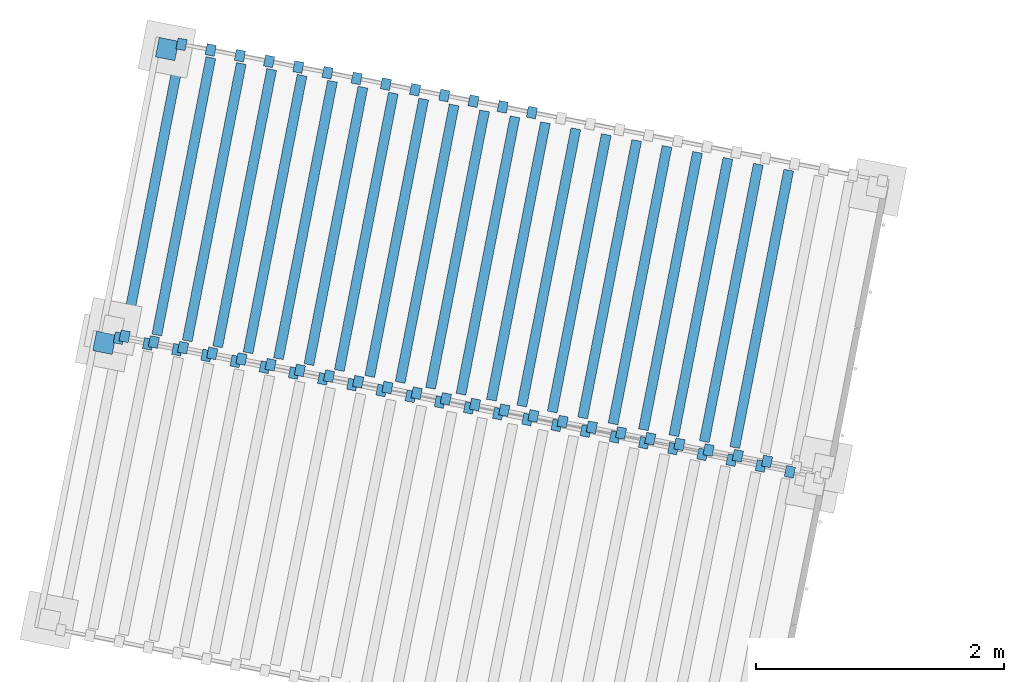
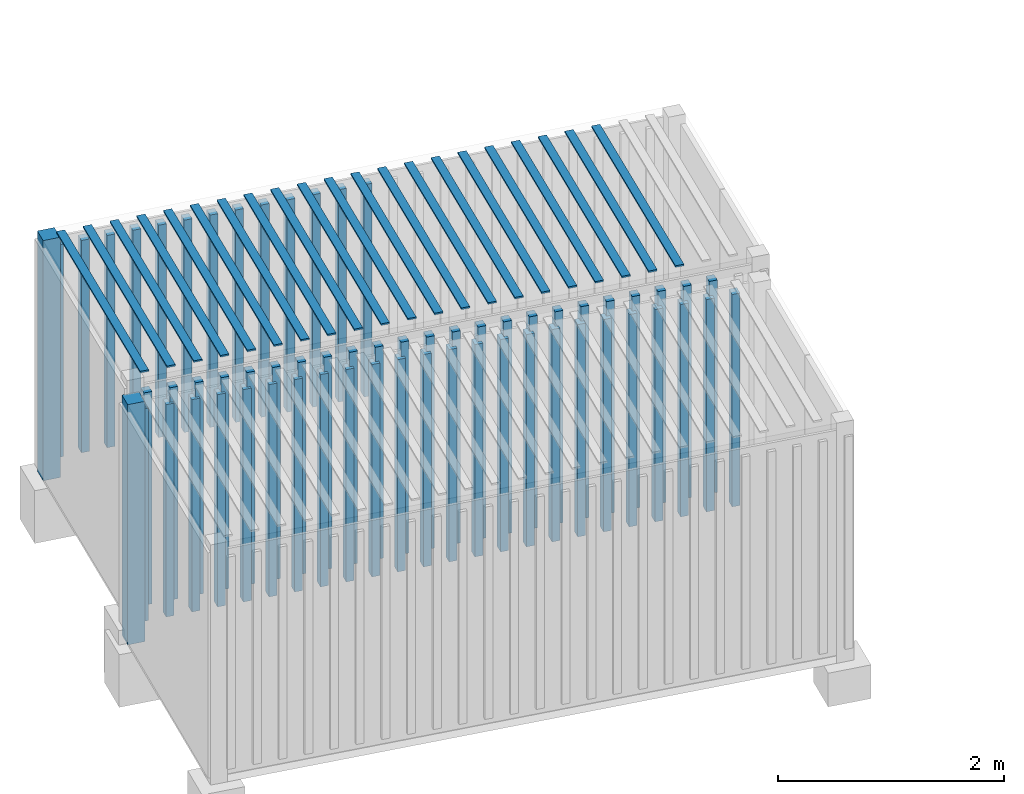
# One storey, part 83 of 142: 83 members, 2 elements without a shape of their own.
"""IFC4 building model written with IfcOpenShell, lengths in metres."""

from ifc_helpers import new_model, si_unit, direction, frame, origin_with_axes, place, context, subcontext, project, spatial, polyline, outline, extrude, material, element, aggregate, save


model = new_model("IFC4")

# Units and contexts
model_context = context("Model", 3, precision=1e-05, world=origin_with_axes(), true_north=direction((0.0, 1.0)))
body_context = subcontext(model_context, "Body", "Model", "MODEL_VIEW")
ifc_project = project(units=[si_unit("LENGTHUNIT", "METRE"), si_unit("AREAUNIT", "SQUARE_METRE"), si_unit("VOLUMEUNIT", "CUBIC_METRE")], contexts=[model_context])

# Site, building, storey
site_placement = place(None, origin_with_axes())
site = spatial("IfcSite", under=ifc_project, at=site_placement, Name="Lares · Rua das Mercês · artigo 4771")
building_placement = place(site_placement, frame((15.0, 9.7, 14.65), z_axis=(0.0, 0.0, 1.0), x_axis=(0.989015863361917, -0.147809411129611, 0.0)))
building = spatial("IfcBuilding", under=site, at=building_placement, Name="Casa Sobreposta")
storey_placement = place(building_placement, origin_with_axes())
storey = spatial("IfcBuildingStorey", under=building, at=storey_placement, Name="00 · Habitação e estacionamento", Elevation=14.65)

# Assembly, members
assembly_1_placement = place(storey_placement, frame((-14.4335953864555, 9.04888612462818, 0.0), z_axis=(0.0, 0.0, 1.0), x_axis=(0.999032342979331, -0.0439815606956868, 0.0)))
assembly_1 = element("IfcElementAssembly", 1, at=assembly_1_placement, inside=storey, Name="Contentor existente 1 · 6 m", ObjectType="EXISTING_SHIPPING_CONTAINER", PredefinedType="USERDEFINED")
ifc_material_1 = material(Name="Contentor · pintura 1", Category="steel")
member_1_placement = place(assembly_1_placement, frame((0.0, 0.0, -1.01314181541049), z_axis=(0.0, 0.0, 1.0), x_axis=(1.0, 0.0, 0.0)))
member_1 = element("IfcMember", 2, at=member_1_placement, material=ifc_material_1, Name="Contentor · canto", context=body_context, shape_type="SweptSolid", body=[
    extrude(outline(polyline([(0.16, 2.28), (0.16, 2.44), (0.0, 2.44), (0.0, 2.28), (0.16, 2.28)])), origin_with_axes(), (0.0, 0.0, 1.0), 2.59),
])
member_2_placement = place(assembly_1_placement, frame((0.0, 0.0, -0.863141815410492), z_axis=(0.0, 0.0, 1.0), x_axis=(1.0, 0.0, 0.0)))
member_2 = element("IfcMember", 3, at=member_2_placement, material=ifc_material_1, Name="Contentor · nervura lateral", context=body_context, shape_type="SweptSolid", body=[
    extrude(outline(polyline([(0.225, -0.025), (0.225, 0.065), (0.15, 0.065), (0.15, -0.025), (0.225, -0.025)])), origin_with_axes(), (0.0, 0.0, 1.0), 2.29),
])
member_3_placement = place(assembly_1_placement, frame((0.0, 0.0, -0.863141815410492), z_axis=(0.0, 0.0, 1.0), x_axis=(1.0, 0.0, 0.0)))
member_3 = element("IfcMember", 4, at=member_3_placement, material=ifc_material_1, Name="Contentor · nervura lateral", context=body_context, shape_type="SweptSolid", body=[
    extrude(outline(polyline([(0.465, -0.025), (0.465, 0.065), (0.39, 0.065), (0.39, -0.025), (0.465, -0.025)])), origin_with_axes(), (0.0, 0.0, 1.0), 2.29),
])
member_4_placement = place(assembly_1_placement, frame((0.0, 0.0, -0.863141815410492), z_axis=(0.0, 0.0, 1.0), x_axis=(1.0, 0.0, 0.0)))
member_4 = element("IfcMember", 5, at=member_4_placement, material=ifc_material_1, Name="Contentor · nervura lateral", context=body_context, shape_type="SweptSolid", body=[
    extrude(outline(polyline([(0.705, -0.025), (0.705, 0.065), (0.63, 0.065), (0.63, -0.025), (0.705, -0.025)])), origin_with_axes(), (0.0, 0.0, 1.0), 2.29),
])
member_5_placement = place(assembly_1_placement, frame((0.0, 0.0, -0.863141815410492), z_axis=(0.0, 0.0, 1.0), x_axis=(1.0, 0.0, 0.0)))
member_5 = element("IfcMember", 6, at=member_5_placement, material=ifc_material_1, Name="Contentor · nervura lateral", context=body_context, shape_type="SweptSolid", body=[
    extrude(outline(polyline([(0.945, -0.025), (0.945, 0.065), (0.87, 0.065), (0.87, -0.025), (0.945, -0.025)])), origin_with_axes(), (0.0, 0.0, 1.0), 2.29),
])
member_6_placement = place(assembly_1_placement, frame((0.0, 0.0, -0.863141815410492), z_axis=(0.0, 0.0, 1.0), x_axis=(1.0, 0.0, 0.0)))
member_6 = element("IfcMember", 7, at=member_6_placement, material=ifc_material_1, Name="Contentor · nervura lateral", context=body_context, shape_type="SweptSolid", body=[
    extrude(outline(polyline([(1.185, -0.025), (1.185, 0.065), (1.11, 0.065), (1.11, -0.025), (1.185, -0.025)])), origin_with_axes(), (0.0, 0.0, 1.0), 2.29),
])
member_7_placement = place(assembly_1_placement, frame((0.0, 0.0, -0.863141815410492), z_axis=(0.0, 0.0, 1.0), x_axis=(1.0, 0.0, 0.0)))
member_7 = element("IfcMember", 8, at=member_7_placement, material=ifc_material_1, Name="Contentor · nervura lateral", context=body_context, shape_type="SweptSolid", body=[
    extrude(outline(polyline([(1.425, -0.025), (1.425, 0.065), (1.35, 0.065), (1.35, -0.025), (1.425, -0.025)])), origin_with_axes(), (0.0, 0.0, 1.0), 2.29),
])
member_8_placement = place(assembly_1_placement, frame((0.0, 0.0, -0.863141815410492), z_axis=(0.0, 0.0, 1.0), x_axis=(1.0, 0.0, 0.0)))
member_8 = element("IfcMember", 9, at=member_8_placement, material=ifc_material_1, Name="Contentor · nervura lateral", context=body_context, shape_type="SweptSolid", body=[
    extrude(outline(polyline([(1.665, -0.025), (1.665, 0.065), (1.59, 0.065), (1.59, -0.025), (1.665, -0.025)])), origin_with_axes(), (0.0, 0.0, 1.0), 2.29),
])
member_9_placement = place(assembly_1_placement, frame((0.0, 0.0, -0.863141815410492), z_axis=(0.0, 0.0, 1.0), x_axis=(1.0, 0.0, 0.0)))
member_9 = element("IfcMember", 10, at=member_9_placement, material=ifc_material_1, Name="Contentor · nervura lateral", context=body_context, shape_type="SweptSolid", body=[
    extrude(outline(polyline([(1.905, -0.025), (1.905, 0.065), (1.83, 0.065), (1.83, -0.025), (1.905, -0.025)])), origin_with_axes(), (0.0, 0.0, 1.0), 2.29),
])
member_10_placement = place(assembly_1_placement, frame((0.0, 0.0, -0.863141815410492), z_axis=(0.0, 0.0, 1.0), x_axis=(1.0, 0.0, 0.0)))
member_10 = element("IfcMember", 11, at=member_10_placement, material=ifc_material_1, Name="Contentor · nervura lateral", context=body_context, shape_type="SweptSolid", body=[
    extrude(outline(polyline([(2.145, -0.025), (2.145, 0.065), (2.07, 0.065), (2.07, -0.025), (2.145, -0.025)])), origin_with_axes(), (0.0, 0.0, 1.0), 2.29),
])
member_11_placement = place(assembly_1_placement, frame((0.0, 0.0, -0.863141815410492), z_axis=(0.0, 0.0, 1.0), x_axis=(1.0, 0.0, 0.0)))
member_11 = element("IfcMember", 12, at=member_11_placement, material=ifc_material_1, Name="Contentor · nervura lateral", context=body_context, shape_type="SweptSolid", body=[
    extrude(outline(polyline([(2.385, -0.025), (2.385, 0.065), (2.31, 0.065), (2.31, -0.025), (2.385, -0.025)])), origin_with_axes(), (0.0, 0.0, 1.0), 2.29),
])
member_12_placement = place(assembly_1_placement, frame((0.0, 0.0, -0.863141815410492), z_axis=(0.0, 0.0, 1.0), x_axis=(1.0, 0.0, 0.0)))
member_12 = element("IfcMember", 13, at=member_12_placement, material=ifc_material_1, Name="Contentor · nervura lateral", context=body_context, shape_type="SweptSolid", body=[
    extrude(outline(polyline([(2.625, -0.025), (2.625, 0.065), (2.55, 0.065), (2.55, -0.025), (2.625, -0.025)])), origin_with_axes(), (0.0, 0.0, 1.0), 2.29),
])
member_13_placement = place(assembly_1_placement, frame((0.0, 0.0, -0.863141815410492), z_axis=(0.0, 0.0, 1.0), x_axis=(1.0, 0.0, 0.0)))
member_13 = element("IfcMember", 14, at=member_13_placement, material=ifc_material_1, Name="Contentor · nervura lateral", context=body_context, shape_type="SweptSolid", body=[
    extrude(outline(polyline([(2.865, -0.025), (2.865, 0.065), (2.79, 0.065), (2.79, -0.025), (2.865, -0.025)])), origin_with_axes(), (0.0, 0.0, 1.0), 2.29),
])
member_14_placement = place(assembly_1_placement, frame((0.0, 0.0, -0.863141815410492), z_axis=(0.0, 0.0, 1.0), x_axis=(1.0, 0.0, 0.0)))
member_14 = element("IfcMember", 15, at=member_14_placement, material=ifc_material_1, Name="Contentor · nervura lateral", context=body_context, shape_type="SweptSolid", body=[
    extrude(outline(polyline([(3.105, -0.025), (3.105, 0.065), (3.03, 0.065), (3.03, -0.025), (3.105, -0.025)])), origin_with_axes(), (0.0, 0.0, 1.0), 2.29),
])
member_15_placement = place(assembly_1_placement, frame((0.0, 0.0, -0.863141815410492), z_axis=(0.0, 0.0, 1.0), x_axis=(1.0, 0.0, 0.0)))
member_15 = element("IfcMember", 16, at=member_15_placement, material=ifc_material_1, Name="Contentor · nervura lateral", context=body_context, shape_type="SweptSolid", body=[
    extrude(outline(polyline([(3.345, -0.025), (3.345, 0.065), (3.27, 0.065), (3.27, -0.025), (3.345, -0.025)])), origin_with_axes(), (0.0, 0.0, 1.0), 2.29),
])
member_16_placement = place(assembly_1_placement, frame((0.0, 0.0, -0.863141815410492), z_axis=(0.0, 0.0, 1.0), x_axis=(1.0, 0.0, 0.0)))
member_16 = element("IfcMember", 17, at=member_16_placement, material=ifc_material_1, Name="Contentor · nervura lateral", context=body_context, shape_type="SweptSolid", body=[
    extrude(outline(polyline([(3.585, -0.025), (3.585, 0.065), (3.51, 0.065), (3.51, -0.025), (3.585, -0.025)])), origin_with_axes(), (0.0, 0.0, 1.0), 2.29),
])
member_17_placement = place(assembly_1_placement, frame((0.0, 0.0, -0.863141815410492), z_axis=(0.0, 0.0, 1.0), x_axis=(1.0, 0.0, 0.0)))
member_17 = element("IfcMember", 18, at=member_17_placement, material=ifc_material_1, Name="Contentor · nervura lateral", context=body_context, shape_type="SweptSolid", body=[
    extrude(outline(polyline([(3.825, -0.025), (3.825, 0.065), (3.75, 0.065), (3.75, -0.025), (3.825, -0.025)])), origin_with_axes(), (0.0, 0.0, 1.0), 2.29),
])
member_18_placement = place(assembly_1_placement, frame((0.0, 0.0, -0.863141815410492), z_axis=(0.0, 0.0, 1.0), x_axis=(1.0, 0.0, 0.0)))
member_18 = element("IfcMember", 19, at=member_18_placement, material=ifc_material_1, Name="Contentor · nervura lateral", context=body_context, shape_type="SweptSolid", body=[
    extrude(outline(polyline([(4.065, -0.025), (4.065, 0.065), (3.99, 0.065), (3.99, -0.025), (4.065, -0.025)])), origin_with_axes(), (0.0, 0.0, 1.0), 2.29),
])
member_19_placement = place(assembly_1_placement, frame((0.0, 0.0, -0.863141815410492), z_axis=(0.0, 0.0, 1.0), x_axis=(1.0, 0.0, 0.0)))
member_19 = element("IfcMember", 20, at=member_19_placement, material=ifc_material_1, Name="Contentor · nervura lateral", context=body_context, shape_type="SweptSolid", body=[
    extrude(outline(polyline([(4.305, -0.025), (4.305, 0.065), (4.23, 0.065), (4.23, -0.025), (4.305, -0.025)])), origin_with_axes(), (0.0, 0.0, 1.0), 2.29),
])
member_20_placement = place(assembly_1_placement, frame((0.0, 0.0, -0.863141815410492), z_axis=(0.0, 0.0, 1.0), x_axis=(1.0, 0.0, 0.0)))
member_20 = element("IfcMember", 21, at=member_20_placement, material=ifc_material_1, Name="Contentor · nervura lateral", context=body_context, shape_type="SweptSolid", body=[
    extrude(outline(polyline([(4.545, -0.025), (4.545, 0.065), (4.47, 0.065), (4.47, -0.025), (4.545, -0.025)])), origin_with_axes(), (0.0, 0.0, 1.0), 2.29),
])
member_21_placement = place(assembly_1_placement, frame((0.0, 0.0, -0.863141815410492), z_axis=(0.0, 0.0, 1.0), x_axis=(1.0, 0.0, 0.0)))
member_21 = element("IfcMember", 22, at=member_21_placement, material=ifc_material_1, Name="Contentor · nervura lateral", context=body_context, shape_type="SweptSolid", body=[
    extrude(outline(polyline([(4.785, -0.025), (4.785, 0.065), (4.71, 0.065), (4.71, -0.025), (4.785, -0.025)])), origin_with_axes(), (0.0, 0.0, 1.0), 2.29),
])
member_22_placement = place(assembly_1_placement, frame((0.0, 0.0, -0.863141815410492), z_axis=(0.0, 0.0, 1.0), x_axis=(1.0, 0.0, 0.0)))
member_22 = element("IfcMember", 23, at=member_22_placement, material=ifc_material_1, Name="Contentor · nervura lateral", context=body_context, shape_type="SweptSolid", body=[
    extrude(outline(polyline([(5.025, -0.025), (5.025, 0.065), (4.95, 0.065), (4.95, -0.025), (5.025, -0.025)])), origin_with_axes(), (0.0, 0.0, 1.0), 2.29),
])
member_23_placement = place(assembly_1_placement, frame((0.0, 0.0, -0.863141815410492), z_axis=(0.0, 0.0, 1.0), x_axis=(1.0, 0.0, 0.0)))
member_23 = element("IfcMember", 24, at=member_23_placement, material=ifc_material_1, Name="Contentor · nervura lateral", context=body_context, shape_type="SweptSolid", body=[
    extrude(outline(polyline([(5.265, -0.025), (5.265, 0.065), (5.19, 0.065), (5.19, -0.025), (5.265, -0.025)])), origin_with_axes(), (0.0, 0.0, 1.0), 2.29),
])
member_24_placement = place(assembly_1_placement, frame((0.0, 0.0, -0.863141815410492), z_axis=(0.0, 0.0, 1.0), x_axis=(1.0, 0.0, 0.0)))
member_24 = element("IfcMember", 25, at=member_24_placement, material=ifc_material_1, Name="Contentor · nervura lateral", context=body_context, shape_type="SweptSolid", body=[
    extrude(outline(polyline([(5.505, -0.025), (5.505, 0.065), (5.43, 0.065), (5.43, -0.025), (5.505, -0.025)])), origin_with_axes(), (0.0, 0.0, 1.0), 2.29),
])
member_25_placement = place(assembly_1_placement, frame((0.0, 0.0, -0.863141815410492), z_axis=(0.0, 0.0, 1.0), x_axis=(1.0, 0.0, 0.0)))
member_25 = element("IfcMember", 26, at=member_25_placement, material=ifc_material_1, Name="Contentor · nervura lateral", context=body_context, shape_type="SweptSolid", body=[
    extrude(outline(polyline([(0.225, 2.375), (0.225, 2.465), (0.15, 2.465), (0.15, 2.375), (0.225, 2.375)])), origin_with_axes(), (0.0, 0.0, 1.0), 2.29),
])
member_26_placement = place(assembly_1_placement, frame((0.0, 0.0, -0.863141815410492), z_axis=(0.0, 0.0, 1.0), x_axis=(1.0, 0.0, 0.0)))
member_26 = element("IfcMember", 27, at=member_26_placement, material=ifc_material_1, Name="Contentor · nervura lateral", context=body_context, shape_type="SweptSolid", body=[
    extrude(outline(polyline([(0.465, 2.375), (0.465, 2.465), (0.39, 2.465), (0.39, 2.375), (0.465, 2.375)])), origin_with_axes(), (0.0, 0.0, 1.0), 2.29),
])
member_27_placement = place(assembly_1_placement, frame((0.0, 0.0, -0.863141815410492), z_axis=(0.0, 0.0, 1.0), x_axis=(1.0, 0.0, 0.0)))
member_27 = element("IfcMember", 28, at=member_27_placement, material=ifc_material_1, Name="Contentor · nervura lateral", context=body_context, shape_type="SweptSolid", body=[
    extrude(outline(polyline([(0.705, 2.375), (0.705, 2.465), (0.63, 2.465), (0.63, 2.375), (0.705, 2.375)])), origin_with_axes(), (0.0, 0.0, 1.0), 2.29),
])
member_28_placement = place(assembly_1_placement, frame((0.0, 0.0, -0.863141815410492), z_axis=(0.0, 0.0, 1.0), x_axis=(1.0, 0.0, 0.0)))
member_28 = element("IfcMember", 29, at=member_28_placement, material=ifc_material_1, Name="Contentor · nervura lateral", context=body_context, shape_type="SweptSolid", body=[
    extrude(outline(polyline([(0.945, 2.375), (0.945, 2.465), (0.87, 2.465), (0.87, 2.375), (0.945, 2.375)])), origin_with_axes(), (0.0, 0.0, 1.0), 2.29),
])
member_29_placement = place(assembly_1_placement, frame((0.0, 0.0, -0.863141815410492), z_axis=(0.0, 0.0, 1.0), x_axis=(1.0, 0.0, 0.0)))
member_29 = element("IfcMember", 30, at=member_29_placement, material=ifc_material_1, Name="Contentor · nervura lateral", context=body_context, shape_type="SweptSolid", body=[
    extrude(outline(polyline([(1.185, 2.375), (1.185, 2.465), (1.11, 2.465), (1.11, 2.375), (1.185, 2.375)])), origin_with_axes(), (0.0, 0.0, 1.0), 2.29),
])
member_30_placement = place(assembly_1_placement, frame((0.0, 0.0, -0.863141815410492), z_axis=(0.0, 0.0, 1.0), x_axis=(1.0, 0.0, 0.0)))
member_30 = element("IfcMember", 31, at=member_30_placement, material=ifc_material_1, Name="Contentor · nervura lateral", context=body_context, shape_type="SweptSolid", body=[
    extrude(outline(polyline([(1.425, 2.375), (1.425, 2.465), (1.35, 2.465), (1.35, 2.375), (1.425, 2.375)])), origin_with_axes(), (0.0, 0.0, 1.0), 2.29),
])
member_31_placement = place(assembly_1_placement, frame((0.0, 0.0, -0.863141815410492), z_axis=(0.0, 0.0, 1.0), x_axis=(1.0, 0.0, 0.0)))
member_31 = element("IfcMember", 32, at=member_31_placement, material=ifc_material_1, Name="Contentor · nervura lateral", context=body_context, shape_type="SweptSolid", body=[
    extrude(outline(polyline([(1.665, 2.375), (1.665, 2.465), (1.59, 2.465), (1.59, 2.375), (1.665, 2.375)])), origin_with_axes(), (0.0, 0.0, 1.0), 2.29),
])
member_32_placement = place(assembly_1_placement, frame((0.0, 0.0, -0.863141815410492), z_axis=(0.0, 0.0, 1.0), x_axis=(1.0, 0.0, 0.0)))
member_32 = element("IfcMember", 33, at=member_32_placement, material=ifc_material_1, Name="Contentor · nervura lateral", context=body_context, shape_type="SweptSolid", body=[
    extrude(outline(polyline([(1.905, 2.375), (1.905, 2.465), (1.83, 2.465), (1.83, 2.375), (1.905, 2.375)])), origin_with_axes(), (0.0, 0.0, 1.0), 2.29),
])
member_33_placement = place(assembly_1_placement, frame((0.0, 0.0, -0.863141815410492), z_axis=(0.0, 0.0, 1.0), x_axis=(1.0, 0.0, 0.0)))
member_33 = element("IfcMember", 34, at=member_33_placement, material=ifc_material_1, Name="Contentor · nervura lateral", context=body_context, shape_type="SweptSolid", body=[
    extrude(outline(polyline([(2.145, 2.375), (2.145, 2.465), (2.07, 2.465), (2.07, 2.375), (2.145, 2.375)])), origin_with_axes(), (0.0, 0.0, 1.0), 2.29),
])
member_34_placement = place(assembly_1_placement, frame((0.0, 0.0, -0.863141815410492), z_axis=(0.0, 0.0, 1.0), x_axis=(1.0, 0.0, 0.0)))
member_34 = element("IfcMember", 35, at=member_34_placement, material=ifc_material_1, Name="Contentor · nervura lateral", context=body_context, shape_type="SweptSolid", body=[
    extrude(outline(polyline([(2.385, 2.375), (2.385, 2.465), (2.31, 2.465), (2.31, 2.375), (2.385, 2.375)])), origin_with_axes(), (0.0, 0.0, 1.0), 2.29),
])
member_35_placement = place(assembly_1_placement, frame((0.0, 0.0, -0.863141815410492), z_axis=(0.0, 0.0, 1.0), x_axis=(1.0, 0.0, 0.0)))
member_35 = element("IfcMember", 36, at=member_35_placement, material=ifc_material_1, Name="Contentor · nervura lateral", context=body_context, shape_type="SweptSolid", body=[
    extrude(outline(polyline([(2.625, 2.375), (2.625, 2.465), (2.55, 2.465), (2.55, 2.375), (2.625, 2.375)])), origin_with_axes(), (0.0, 0.0, 1.0), 2.29),
])
member_36_placement = place(assembly_1_placement, frame((0.0, 0.0, -0.863141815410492), z_axis=(0.0, 0.0, 1.0), x_axis=(1.0, 0.0, 0.0)))
member_36 = element("IfcMember", 37, at=member_36_placement, material=ifc_material_1, Name="Contentor · nervura lateral", context=body_context, shape_type="SweptSolid", body=[
    extrude(outline(polyline([(2.865, 2.375), (2.865, 2.465), (2.79, 2.465), (2.79, 2.375), (2.865, 2.375)])), origin_with_axes(), (0.0, 0.0, 1.0), 2.29),
])
member_37_placement = place(assembly_1_placement, frame((0.0, 0.0, -0.863141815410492), z_axis=(0.0, 0.0, 1.0), x_axis=(1.0, 0.0, 0.0)))
member_37 = element("IfcMember", 38, at=member_37_placement, material=ifc_material_1, Name="Contentor · nervura lateral", context=body_context, shape_type="SweptSolid", body=[
    extrude(outline(polyline([(3.105, 2.375), (3.105, 2.465), (3.03, 2.465), (3.03, 2.375), (3.105, 2.375)])), origin_with_axes(), (0.0, 0.0, 1.0), 2.29),
])
member_38_placement = place(assembly_1_placement, frame((0.0, 0.0, 1.57185818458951), z_axis=(0.0, 0.0, 1.0), x_axis=(1.0, 0.0, 0.0)))
member_38 = element("IfcMember", 39, at=member_38_placement, material=ifc_material_1, Name="Contentor · nervura cobertura", context=body_context, shape_type="SweptSolid", body=[
    extrude(outline(polyline([(0.23, 0.08), (0.23, 2.36), (0.15, 2.36), (0.15, 0.08), (0.23, 0.08)])), origin_with_axes(), (0.0, 0.0, 1.0), 0.018),
])
member_39_placement = place(assembly_1_placement, frame((0.0, 0.0, 1.57185818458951), z_axis=(0.0, 0.0, 1.0), x_axis=(1.0, 0.0, 0.0)))
member_39 = element("IfcMember", 40, at=member_39_placement, material=ifc_material_1, Name="Contentor · nervura cobertura", context=body_context, shape_type="SweptSolid", body=[
    extrude(outline(polyline([(0.48, 0.08), (0.48, 2.36), (0.4, 2.36), (0.4, 0.08), (0.48, 0.08)])), origin_with_axes(), (0.0, 0.0, 1.0), 0.018),
])
member_40_placement = place(assembly_1_placement, frame((0.0, 0.0, 1.57185818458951), z_axis=(0.0, 0.0, 1.0), x_axis=(1.0, 0.0, 0.0)))
member_40 = element("IfcMember", 41, at=member_40_placement, material=ifc_material_1, Name="Contentor · nervura cobertura", context=body_context, shape_type="SweptSolid", body=[
    extrude(outline(polyline([(0.73, 0.08), (0.73, 2.36), (0.65, 2.36), (0.65, 0.08), (0.73, 0.08)])), origin_with_axes(), (0.0, 0.0, 1.0), 0.018),
])
member_41_placement = place(assembly_1_placement, frame((0.0, 0.0, 1.57185818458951), z_axis=(0.0, 0.0, 1.0), x_axis=(1.0, 0.0, 0.0)))
member_41 = element("IfcMember", 42, at=member_41_placement, material=ifc_material_1, Name="Contentor · nervura cobertura", context=body_context, shape_type="SweptSolid", body=[
    extrude(outline(polyline([(0.98, 0.08), (0.98, 2.36), (0.9, 2.36), (0.9, 0.08), (0.98, 0.08)])), origin_with_axes(), (0.0, 0.0, 1.0), 0.018),
])
member_42_placement = place(assembly_1_placement, frame((0.0, 0.0, 1.57185818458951), z_axis=(0.0, 0.0, 1.0), x_axis=(1.0, 0.0, 0.0)))
member_42 = element("IfcMember", 43, at=member_42_placement, material=ifc_material_1, Name="Contentor · nervura cobertura", context=body_context, shape_type="SweptSolid", body=[
    extrude(outline(polyline([(1.23, 0.08), (1.23, 2.36), (1.15, 2.36), (1.15, 0.08), (1.23, 0.08)])), origin_with_axes(), (0.0, 0.0, 1.0), 0.018),
])
member_43_placement = place(assembly_1_placement, frame((0.0, 0.0, 1.57185818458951), z_axis=(0.0, 0.0, 1.0), x_axis=(1.0, 0.0, 0.0)))
member_43 = element("IfcMember", 44, at=member_43_placement, material=ifc_material_1, Name="Contentor · nervura cobertura", context=body_context, shape_type="SweptSolid", body=[
    extrude(outline(polyline([(1.48, 0.08), (1.48, 2.36), (1.4, 2.36), (1.4, 0.08), (1.48, 0.08)])), origin_with_axes(), (0.0, 0.0, 1.0), 0.018),
])
member_44_placement = place(assembly_1_placement, frame((0.0, 0.0, 1.57185818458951), z_axis=(0.0, 0.0, 1.0), x_axis=(1.0, 0.0, 0.0)))
member_44 = element("IfcMember", 45, at=member_44_placement, material=ifc_material_1, Name="Contentor · nervura cobertura", context=body_context, shape_type="SweptSolid", body=[
    extrude(outline(polyline([(1.73, 0.08), (1.73, 2.36), (1.65, 2.36), (1.65, 0.08), (1.73, 0.08)])), origin_with_axes(), (0.0, 0.0, 1.0), 0.018),
])
member_45_placement = place(assembly_1_placement, frame((0.0, 0.0, 1.57185818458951), z_axis=(0.0, 0.0, 1.0), x_axis=(1.0, 0.0, 0.0)))
member_45 = element("IfcMember", 46, at=member_45_placement, material=ifc_material_1, Name="Contentor · nervura cobertura", context=body_context, shape_type="SweptSolid", body=[
    extrude(outline(polyline([(1.98, 0.08), (1.98, 2.36), (1.9, 2.36), (1.9, 0.08), (1.98, 0.08)])), origin_with_axes(), (0.0, 0.0, 1.0), 0.018),
])
member_46_placement = place(assembly_1_placement, frame((0.0, 0.0, 1.57185818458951), z_axis=(0.0, 0.0, 1.0), x_axis=(1.0, 0.0, 0.0)))
member_46 = element("IfcMember", 47, at=member_46_placement, material=ifc_material_1, Name="Contentor · nervura cobertura", context=body_context, shape_type="SweptSolid", body=[
    extrude(outline(polyline([(2.23, 0.08), (2.23, 2.36), (2.15, 2.36), (2.15, 0.08), (2.23, 0.08)])), origin_with_axes(), (0.0, 0.0, 1.0), 0.018),
])
member_47_placement = place(assembly_1_placement, frame((0.0, 0.0, 1.57185818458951), z_axis=(0.0, 0.0, 1.0), x_axis=(1.0, 0.0, 0.0)))
member_47 = element("IfcMember", 48, at=member_47_placement, material=ifc_material_1, Name="Contentor · nervura cobertura", context=body_context, shape_type="SweptSolid", body=[
    extrude(outline(polyline([(2.48, 0.08), (2.48, 2.36), (2.4, 2.36), (2.4, 0.08), (2.48, 0.08)])), origin_with_axes(), (0.0, 0.0, 1.0), 0.018),
])
member_48_placement = place(assembly_1_placement, frame((0.0, 0.0, 1.57185818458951), z_axis=(0.0, 0.0, 1.0), x_axis=(1.0, 0.0, 0.0)))
member_48 = element("IfcMember", 49, at=member_48_placement, material=ifc_material_1, Name="Contentor · nervura cobertura", context=body_context, shape_type="SweptSolid", body=[
    extrude(outline(polyline([(2.73, 0.08), (2.73, 2.36), (2.65, 2.36), (2.65, 0.08), (2.73, 0.08)])), origin_with_axes(), (0.0, 0.0, 1.0), 0.018),
])
member_49_placement = place(assembly_1_placement, frame((0.0, 0.0, 1.57185818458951), z_axis=(0.0, 0.0, 1.0), x_axis=(1.0, 0.0, 0.0)))
member_49 = element("IfcMember", 50, at=member_49_placement, material=ifc_material_1, Name="Contentor · nervura cobertura", context=body_context, shape_type="SweptSolid", body=[
    extrude(outline(polyline([(2.98, 0.08), (2.98, 2.36), (2.9, 2.36), (2.9, 0.08), (2.98, 0.08)])), origin_with_axes(), (0.0, 0.0, 1.0), 0.018),
])
member_50_placement = place(assembly_1_placement, frame((0.0, 0.0, 1.57185818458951), z_axis=(0.0, 0.0, 1.0), x_axis=(1.0, 0.0, 0.0)))
member_50 = element("IfcMember", 51, at=member_50_placement, material=ifc_material_1, Name="Contentor · nervura cobertura", context=body_context, shape_type="SweptSolid", body=[
    extrude(outline(polyline([(3.23, 0.08), (3.23, 2.36), (3.15, 2.36), (3.15, 0.08), (3.23, 0.08)])), origin_with_axes(), (0.0, 0.0, 1.0), 0.018),
])
member_51_placement = place(assembly_1_placement, frame((0.0, 0.0, 1.57185818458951), z_axis=(0.0, 0.0, 1.0), x_axis=(1.0, 0.0, 0.0)))
member_51 = element("IfcMember", 52, at=member_51_placement, material=ifc_material_1, Name="Contentor · nervura cobertura", context=body_context, shape_type="SweptSolid", body=[
    extrude(outline(polyline([(3.48, 0.08), (3.48, 2.36), (3.4, 2.36), (3.4, 0.08), (3.48, 0.08)])), origin_with_axes(), (0.0, 0.0, 1.0), 0.018),
])
member_52_placement = place(assembly_1_placement, frame((0.0, 0.0, 1.57185818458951), z_axis=(0.0, 0.0, 1.0), x_axis=(1.0, 0.0, 0.0)))
member_52 = element("IfcMember", 53, at=member_52_placement, material=ifc_material_1, Name="Contentor · nervura cobertura", context=body_context, shape_type="SweptSolid", body=[
    extrude(outline(polyline([(3.73, 0.08), (3.73, 2.36), (3.65, 2.36), (3.65, 0.08), (3.73, 0.08)])), origin_with_axes(), (0.0, 0.0, 1.0), 0.018),
])
member_53_placement = place(assembly_1_placement, frame((0.0, 0.0, 1.57185818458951), z_axis=(0.0, 0.0, 1.0), x_axis=(1.0, 0.0, 0.0)))
member_53 = element("IfcMember", 54, at=member_53_placement, material=ifc_material_1, Name="Contentor · nervura cobertura", context=body_context, shape_type="SweptSolid", body=[
    extrude(outline(polyline([(3.98, 0.08), (3.98, 2.36), (3.9, 2.36), (3.9, 0.08), (3.98, 0.08)])), origin_with_axes(), (0.0, 0.0, 1.0), 0.018),
])
member_54_placement = place(assembly_1_placement, frame((0.0, 0.0, 1.57185818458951), z_axis=(0.0, 0.0, 1.0), x_axis=(1.0, 0.0, 0.0)))
member_54 = element("IfcMember", 55, at=member_54_placement, material=ifc_material_1, Name="Contentor · nervura cobertura", context=body_context, shape_type="SweptSolid", body=[
    extrude(outline(polyline([(4.23, 0.08), (4.23, 2.36), (4.15, 2.36), (4.15, 0.08), (4.23, 0.08)])), origin_with_axes(), (0.0, 0.0, 1.0), 0.018),
])
member_55_placement = place(assembly_1_placement, frame((0.0, 0.0, 1.57185818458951), z_axis=(0.0, 0.0, 1.0), x_axis=(1.0, 0.0, 0.0)))
member_55 = element("IfcMember", 56, at=member_55_placement, material=ifc_material_1, Name="Contentor · nervura cobertura", context=body_context, shape_type="SweptSolid", body=[
    extrude(outline(polyline([(4.48, 0.08), (4.48, 2.36), (4.4, 2.36), (4.4, 0.08), (4.48, 0.08)])), origin_with_axes(), (0.0, 0.0, 1.0), 0.018),
])
member_56_placement = place(assembly_1_placement, frame((0.0, 0.0, 1.57185818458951), z_axis=(0.0, 0.0, 1.0), x_axis=(1.0, 0.0, 0.0)))
member_56 = element("IfcMember", 57, at=member_56_placement, material=ifc_material_1, Name="Contentor · nervura cobertura", context=body_context, shape_type="SweptSolid", body=[
    extrude(outline(polyline([(4.73, 0.08), (4.73, 2.36), (4.65, 2.36), (4.65, 0.08), (4.73, 0.08)])), origin_with_axes(), (0.0, 0.0, 1.0), 0.018),
])
member_57_placement = place(assembly_1_placement, frame((0.0, 0.0, 1.57185818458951), z_axis=(0.0, 0.0, 1.0), x_axis=(1.0, 0.0, 0.0)))
member_57 = element("IfcMember", 58, at=member_57_placement, material=ifc_material_1, Name="Contentor · nervura cobertura", context=body_context, shape_type="SweptSolid", body=[
    extrude(outline(polyline([(4.98, 0.08), (4.98, 2.36), (4.9, 2.36), (4.9, 0.08), (4.98, 0.08)])), origin_with_axes(), (0.0, 0.0, 1.0), 0.018),
])
member_58_placement = place(assembly_1_placement, frame((0.0, 0.0, 1.57185818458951), z_axis=(0.0, 0.0, 1.0), x_axis=(1.0, 0.0, 0.0)))
member_58 = element("IfcMember", 59, at=member_58_placement, material=ifc_material_1, Name="Contentor · nervura cobertura", context=body_context, shape_type="SweptSolid", body=[
    extrude(outline(polyline([(5.23, 0.08), (5.23, 2.36), (5.15, 2.36), (5.15, 0.08), (5.23, 0.08)])), origin_with_axes(), (0.0, 0.0, 1.0), 0.018),
])
aggregate(assembly_1, [member_1, member_2, member_3, member_4, member_5, member_6, member_7, member_8, member_9, member_10, member_11, member_12, member_13, member_14, member_15, member_16, member_17, member_18, member_19, member_20, member_21, member_22, member_23, member_24, member_25, member_26, member_27, member_28, member_29, member_30, member_31, member_32, member_33, member_34, member_35, member_36, member_37, member_38, member_39, member_40, member_41, member_42, member_43, member_44, member_45, member_46, member_47, member_48, member_49, member_50, member_51, member_52, member_53, member_54, member_55, member_56, member_57, member_58])

assembly_2_placement = place(storey_placement, frame((-14.5932944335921, 6.63122214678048, 0.0), z_axis=(0.0, 0.0, 1.0), x_axis=(0.998832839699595, -0.0483007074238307, 0.0)))
assembly_2 = element("IfcElementAssembly", 60, at=assembly_2_placement, inside=storey, Name="Contentor existente 2 · 6 m", ObjectType="EXISTING_SHIPPING_CONTAINER", PredefinedType="USERDEFINED")
ifc_material_2 = material(Name="Contentor · pintura 2", Category="steel")
member_59_placement = place(assembly_2_placement, frame((0.0, 0.0, -1.16875169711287), z_axis=(0.0, 0.0, 1.0), x_axis=(1.0, 0.0, 0.0)))
member_59 = element("IfcMember", 61, at=member_59_placement, material=ifc_material_2, Name="Contentor · canto", context=body_context, shape_type="SweptSolid", body=[
    extrude(outline(polyline([(0.16, 2.28), (0.16, 2.44), (0.0, 2.44), (0.0, 2.28), (0.16, 2.28)])), origin_with_axes(), (0.0, 0.0, 1.0), 2.59),
])
member_60_placement = place(assembly_2_placement, frame((0.0, 0.0, -1.01875169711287), z_axis=(0.0, 0.0, 1.0), x_axis=(1.0, 0.0, 0.0)))
member_60 = element("IfcMember", 62, at=member_60_placement, material=ifc_material_2, Name="Contentor · nervura lateral", context=body_context, shape_type="SweptSolid", body=[
    extrude(outline(polyline([(0.225, 2.375), (0.225, 2.465), (0.15, 2.465), (0.15, 2.375), (0.225, 2.375)])), origin_with_axes(), (0.0, 0.0, 1.0), 2.29),
])
member_61_placement = place(assembly_2_placement, frame((0.0, 0.0, -1.01875169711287), z_axis=(0.0, 0.0, 1.0), x_axis=(1.0, 0.0, 0.0)))
member_61 = element("IfcMember", 63, at=member_61_placement, material=ifc_material_2, Name="Contentor · nervura lateral", context=body_context, shape_type="SweptSolid", body=[
    extrude(outline(polyline([(0.465, 2.375), (0.465, 2.465), (0.39, 2.465), (0.39, 2.375), (0.465, 2.375)])), origin_with_axes(), (0.0, 0.0, 1.0), 2.29),
])
member_62_placement = place(assembly_2_placement, frame((0.0, 0.0, -1.01875169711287), z_axis=(0.0, 0.0, 1.0), x_axis=(1.0, 0.0, 0.0)))
member_62 = element("IfcMember", 64, at=member_62_placement, material=ifc_material_2, Name="Contentor · nervura lateral", context=body_context, shape_type="SweptSolid", body=[
    extrude(outline(polyline([(0.705, 2.375), (0.705, 2.465), (0.63, 2.465), (0.63, 2.375), (0.705, 2.375)])), origin_with_axes(), (0.0, 0.0, 1.0), 2.29),
])
member_63_placement = place(assembly_2_placement, frame((0.0, 0.0, -1.01875169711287), z_axis=(0.0, 0.0, 1.0), x_axis=(1.0, 0.0, 0.0)))
member_63 = element("IfcMember", 65, at=member_63_placement, material=ifc_material_2, Name="Contentor · nervura lateral", context=body_context, shape_type="SweptSolid", body=[
    extrude(outline(polyline([(0.945, 2.375), (0.945, 2.465), (0.87, 2.465), (0.87, 2.375), (0.945, 2.375)])), origin_with_axes(), (0.0, 0.0, 1.0), 2.29),
])
member_64_placement = place(assembly_2_placement, frame((0.0, 0.0, -1.01875169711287), z_axis=(0.0, 0.0, 1.0), x_axis=(1.0, 0.0, 0.0)))
member_64 = element("IfcMember", 66, at=member_64_placement, material=ifc_material_2, Name="Contentor · nervura lateral", context=body_context, shape_type="SweptSolid", body=[
    extrude(outline(polyline([(1.185, 2.375), (1.185, 2.465), (1.11, 2.465), (1.11, 2.375), (1.185, 2.375)])), origin_with_axes(), (0.0, 0.0, 1.0), 2.29),
])
member_65_placement = place(assembly_2_placement, frame((0.0, 0.0, -1.01875169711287), z_axis=(0.0, 0.0, 1.0), x_axis=(1.0, 0.0, 0.0)))
member_65 = element("IfcMember", 67, at=member_65_placement, material=ifc_material_2, Name="Contentor · nervura lateral", context=body_context, shape_type="SweptSolid", body=[
    extrude(outline(polyline([(1.425, 2.375), (1.425, 2.465), (1.35, 2.465), (1.35, 2.375), (1.425, 2.375)])), origin_with_axes(), (0.0, 0.0, 1.0), 2.29),
])
member_66_placement = place(assembly_2_placement, frame((0.0, 0.0, -1.01875169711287), z_axis=(0.0, 0.0, 1.0), x_axis=(1.0, 0.0, 0.0)))
member_66 = element("IfcMember", 68, at=member_66_placement, material=ifc_material_2, Name="Contentor · nervura lateral", context=body_context, shape_type="SweptSolid", body=[
    extrude(outline(polyline([(1.665, 2.375), (1.665, 2.465), (1.59, 2.465), (1.59, 2.375), (1.665, 2.375)])), origin_with_axes(), (0.0, 0.0, 1.0), 2.29),
])
member_67_placement = place(assembly_2_placement, frame((0.0, 0.0, -1.01875169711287), z_axis=(0.0, 0.0, 1.0), x_axis=(1.0, 0.0, 0.0)))
member_67 = element("IfcMember", 69, at=member_67_placement, material=ifc_material_2, Name="Contentor · nervura lateral", context=body_context, shape_type="SweptSolid", body=[
    extrude(outline(polyline([(1.905, 2.375), (1.905, 2.465), (1.83, 2.465), (1.83, 2.375), (1.905, 2.375)])), origin_with_axes(), (0.0, 0.0, 1.0), 2.29),
])
member_68_placement = place(assembly_2_placement, frame((0.0, 0.0, -1.01875169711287), z_axis=(0.0, 0.0, 1.0), x_axis=(1.0, 0.0, 0.0)))
member_68 = element("IfcMember", 70, at=member_68_placement, material=ifc_material_2, Name="Contentor · nervura lateral", context=body_context, shape_type="SweptSolid", body=[
    extrude(outline(polyline([(2.145, 2.375), (2.145, 2.465), (2.07, 2.465), (2.07, 2.375), (2.145, 2.375)])), origin_with_axes(), (0.0, 0.0, 1.0), 2.29),
])
member_69_placement = place(assembly_2_placement, frame((0.0, 0.0, -1.01875169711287), z_axis=(0.0, 0.0, 1.0), x_axis=(1.0, 0.0, 0.0)))
member_69 = element("IfcMember", 71, at=member_69_placement, material=ifc_material_2, Name="Contentor · nervura lateral", context=body_context, shape_type="SweptSolid", body=[
    extrude(outline(polyline([(2.385, 2.375), (2.385, 2.465), (2.31, 2.465), (2.31, 2.375), (2.385, 2.375)])), origin_with_axes(), (0.0, 0.0, 1.0), 2.29),
])
member_70_placement = place(assembly_2_placement, frame((0.0, 0.0, -1.01875169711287), z_axis=(0.0, 0.0, 1.0), x_axis=(1.0, 0.0, 0.0)))
member_70 = element("IfcMember", 72, at=member_70_placement, material=ifc_material_2, Name="Contentor · nervura lateral", context=body_context, shape_type="SweptSolid", body=[
    extrude(outline(polyline([(2.625, 2.375), (2.625, 2.465), (2.55, 2.465), (2.55, 2.375), (2.625, 2.375)])), origin_with_axes(), (0.0, 0.0, 1.0), 2.29),
])
member_71_placement = place(assembly_2_placement, frame((0.0, 0.0, -1.01875169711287), z_axis=(0.0, 0.0, 1.0), x_axis=(1.0, 0.0, 0.0)))
member_71 = element("IfcMember", 73, at=member_71_placement, material=ifc_material_2, Name="Contentor · nervura lateral", context=body_context, shape_type="SweptSolid", body=[
    extrude(outline(polyline([(2.865, 2.375), (2.865, 2.465), (2.79, 2.465), (2.79, 2.375), (2.865, 2.375)])), origin_with_axes(), (0.0, 0.0, 1.0), 2.29),
])
member_72_placement = place(assembly_2_placement, frame((0.0, 0.0, -1.01875169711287), z_axis=(0.0, 0.0, 1.0), x_axis=(1.0, 0.0, 0.0)))
member_72 = element("IfcMember", 74, at=member_72_placement, material=ifc_material_2, Name="Contentor · nervura lateral", context=body_context, shape_type="SweptSolid", body=[
    extrude(outline(polyline([(3.105, 2.375), (3.105, 2.465), (3.03, 2.465), (3.03, 2.375), (3.105, 2.375)])), origin_with_axes(), (0.0, 0.0, 1.0), 2.29),
])
member_73_placement = place(assembly_2_placement, frame((0.0, 0.0, -1.01875169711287), z_axis=(0.0, 0.0, 1.0), x_axis=(1.0, 0.0, 0.0)))
member_73 = element("IfcMember", 75, at=member_73_placement, material=ifc_material_2, Name="Contentor · nervura lateral", context=body_context, shape_type="SweptSolid", body=[
    extrude(outline(polyline([(3.345, 2.375), (3.345, 2.465), (3.27, 2.465), (3.27, 2.375), (3.345, 2.375)])), origin_with_axes(), (0.0, 0.0, 1.0), 2.29),
])
member_74_placement = place(assembly_2_placement, frame((0.0, 0.0, -1.01875169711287), z_axis=(0.0, 0.0, 1.0), x_axis=(1.0, 0.0, 0.0)))
member_74 = element("IfcMember", 76, at=member_74_placement, material=ifc_material_2, Name="Contentor · nervura lateral", context=body_context, shape_type="SweptSolid", body=[
    extrude(outline(polyline([(3.585, 2.375), (3.585, 2.465), (3.51, 2.465), (3.51, 2.375), (3.585, 2.375)])), origin_with_axes(), (0.0, 0.0, 1.0), 2.29),
])
member_75_placement = place(assembly_2_placement, frame((0.0, 0.0, -1.01875169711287), z_axis=(0.0, 0.0, 1.0), x_axis=(1.0, 0.0, 0.0)))
member_75 = element("IfcMember", 77, at=member_75_placement, material=ifc_material_2, Name="Contentor · nervura lateral", context=body_context, shape_type="SweptSolid", body=[
    extrude(outline(polyline([(3.825, 2.375), (3.825, 2.465), (3.75, 2.465), (3.75, 2.375), (3.825, 2.375)])), origin_with_axes(), (0.0, 0.0, 1.0), 2.29),
])
member_76_placement = place(assembly_2_placement, frame((0.0, 0.0, -1.01875169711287), z_axis=(0.0, 0.0, 1.0), x_axis=(1.0, 0.0, 0.0)))
member_76 = element("IfcMember", 78, at=member_76_placement, material=ifc_material_2, Name="Contentor · nervura lateral", context=body_context, shape_type="SweptSolid", body=[
    extrude(outline(polyline([(4.065, 2.375), (4.065, 2.465), (3.99, 2.465), (3.99, 2.375), (4.065, 2.375)])), origin_with_axes(), (0.0, 0.0, 1.0), 2.29),
])
member_77_placement = place(assembly_2_placement, frame((0.0, 0.0, -1.01875169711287), z_axis=(0.0, 0.0, 1.0), x_axis=(1.0, 0.0, 0.0)))
member_77 = element("IfcMember", 79, at=member_77_placement, material=ifc_material_2, Name="Contentor · nervura lateral", context=body_context, shape_type="SweptSolid", body=[
    extrude(outline(polyline([(4.305, 2.375), (4.305, 2.465), (4.23, 2.465), (4.23, 2.375), (4.305, 2.375)])), origin_with_axes(), (0.0, 0.0, 1.0), 2.29),
])
member_78_placement = place(assembly_2_placement, frame((0.0, 0.0, -1.01875169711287), z_axis=(0.0, 0.0, 1.0), x_axis=(1.0, 0.0, 0.0)))
member_78 = element("IfcMember", 80, at=member_78_placement, material=ifc_material_2, Name="Contentor · nervura lateral", context=body_context, shape_type="SweptSolid", body=[
    extrude(outline(polyline([(4.545, 2.375), (4.545, 2.465), (4.47, 2.465), (4.47, 2.375), (4.545, 2.375)])), origin_with_axes(), (0.0, 0.0, 1.0), 2.29),
])
member_79_placement = place(assembly_2_placement, frame((0.0, 0.0, -1.01875169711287), z_axis=(0.0, 0.0, 1.0), x_axis=(1.0, 0.0, 0.0)))
member_79 = element("IfcMember", 81, at=member_79_placement, material=ifc_material_2, Name="Contentor · nervura lateral", context=body_context, shape_type="SweptSolid", body=[
    extrude(outline(polyline([(4.785, 2.375), (4.785, 2.465), (4.71, 2.465), (4.71, 2.375), (4.785, 2.375)])), origin_with_axes(), (0.0, 0.0, 1.0), 2.29),
])
member_80_placement = place(assembly_2_placement, frame((0.0, 0.0, -1.01875169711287), z_axis=(0.0, 0.0, 1.0), x_axis=(1.0, 0.0, 0.0)))
member_80 = element("IfcMember", 82, at=member_80_placement, material=ifc_material_2, Name="Contentor · nervura lateral", context=body_context, shape_type="SweptSolid", body=[
    extrude(outline(polyline([(5.025, 2.375), (5.025, 2.465), (4.95, 2.465), (4.95, 2.375), (5.025, 2.375)])), origin_with_axes(), (0.0, 0.0, 1.0), 2.29),
])
member_81_placement = place(assembly_2_placement, frame((0.0, 0.0, -1.01875169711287), z_axis=(0.0, 0.0, 1.0), x_axis=(1.0, 0.0, 0.0)))
member_81 = element("IfcMember", 83, at=member_81_placement, material=ifc_material_2, Name="Contentor · nervura lateral", context=body_context, shape_type="SweptSolid", body=[
    extrude(outline(polyline([(5.265, 2.375), (5.265, 2.465), (5.19, 2.465), (5.19, 2.375), (5.265, 2.375)])), origin_with_axes(), (0.0, 0.0, 1.0), 2.29),
])
member_82_placement = place(assembly_2_placement, frame((0.0, 0.0, -1.01875169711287), z_axis=(0.0, 0.0, 1.0), x_axis=(1.0, 0.0, 0.0)))
member_82 = element("IfcMember", 84, at=member_82_placement, material=ifc_material_2, Name="Contentor · nervura lateral", context=body_context, shape_type="SweptSolid", body=[
    extrude(outline(polyline([(5.505, 2.375), (5.505, 2.465), (5.43, 2.465), (5.43, 2.375), (5.505, 2.375)])), origin_with_axes(), (0.0, 0.0, 1.0), 2.29),
])
member_83_placement = place(assembly_2_placement, frame((0.0, 0.0, -1.01875169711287), z_axis=(0.0, 0.0, 1.0), x_axis=(1.0, 0.0, 0.0)))
member_83 = element("IfcMember", 85, at=member_83_placement, material=ifc_material_2, Name="Contentor · nervura lateral", context=body_context, shape_type="SweptSolid", body=[
    extrude(outline(polyline([(5.745, 2.375), (5.745, 2.465), (5.67, 2.465), (5.67, 2.375), (5.745, 2.375)])), origin_with_axes(), (0.0, 0.0, 1.0), 2.29),
])
aggregate(assembly_2, [member_59, member_60, member_61, member_62, member_63, member_64, member_65, member_66, member_67, member_68, member_69, member_70, member_71, member_72, member_73, member_74, member_75, member_76, member_77, member_78, member_79, member_80, member_81, member_82, member_83])

save(model, "model.ifc")
